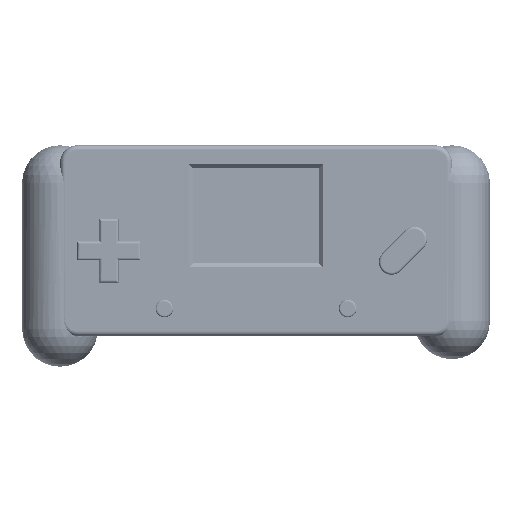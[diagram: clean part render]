
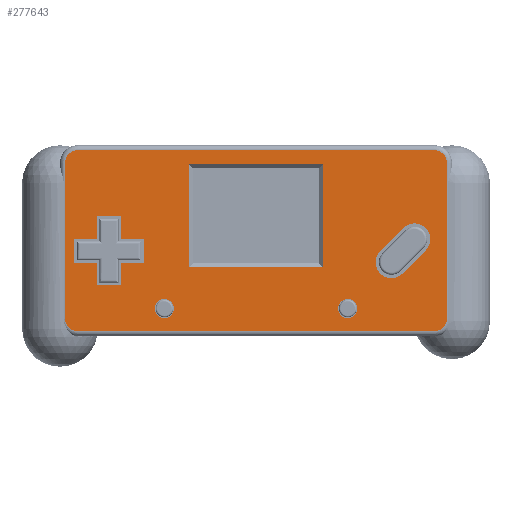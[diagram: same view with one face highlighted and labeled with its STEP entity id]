
A CAD part, top view. The second image highlights one B-rep face of the part: STEP entity #277643.
In plain terms, the highlighted planar face has unit normal (0, 0, 1).
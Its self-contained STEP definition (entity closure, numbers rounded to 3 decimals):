
#15431=FACE_BOUND('',#55122,.T.);
#15432=FACE_BOUND('',#55123,.T.);
#15433=FACE_BOUND('',#55124,.T.);
#15434=FACE_BOUND('',#55125,.T.);
#15435=FACE_BOUND('',#55126,.T.);
#24306=PLANE('',#303301);
#38464=FACE_OUTER_BOUND('',#55121,.T.);
#55121=EDGE_LOOP('',(#259412,#259413,#259414,#259415,#259416,#259417,#259418,
#259419));
#55122=EDGE_LOOP('',(#259420));
#55123=EDGE_LOOP('',(#259421,#259422,#259423,#259424,#259425,#259426,#259427,
#259428,#259429,#259430,#259431,#259432));
#55124=EDGE_LOOP('',(#259433));
#55125=EDGE_LOOP('',(#259434,#259435,#259436,#259437));
#55126=EDGE_LOOP('',(#259438,#259439,#259440,#259441));
#82315=LINE('',#485964,#109541);
#82319=LINE('',#485971,#109545);
#82322=LINE('',#485976,#109548);
#82324=LINE('',#485979,#109550);
#82326=LINE('',#485987,#109552);
#82327=LINE('',#485991,#109553);
#82328=LINE('',#485995,#109554);
#82329=LINE('',#485998,#109555);
#82330=LINE('',#486003,#109556);
#82331=LINE('',#486005,#109557);
#82332=LINE('',#486007,#109558);
#82333=LINE('',#486009,#109559);
#82334=LINE('',#486011,#109560);
#82335=LINE('',#486013,#109561);
#82336=LINE('',#486015,#109562);
#82337=LINE('',#486017,#109563);
#82338=LINE('',#486019,#109564);
#82339=LINE('',#486021,#109565);
#82340=LINE('',#486023,#109566);
#82341=LINE('',#486024,#109567);
#82342=LINE('',#486029,#109568);
#82343=LINE('',#486033,#109569);
#109541=VECTOR('',#377323,10.);
#109545=VECTOR('',#377329,10.);
#109548=VECTOR('',#377334,10.);
#109550=VECTOR('',#377338,10.);
#109552=VECTOR('',#377346,10.);
#109553=VECTOR('',#377349,10.);
#109554=VECTOR('',#377352,10.);
#109555=VECTOR('',#377355,10.);
#109556=VECTOR('',#377358,10.);
#109557=VECTOR('',#377359,10.);
#109558=VECTOR('',#377360,10.);
#109559=VECTOR('',#377361,10.);
#109560=VECTOR('',#377362,10.);
#109561=VECTOR('',#377363,10.);
#109562=VECTOR('',#377364,10.);
#109563=VECTOR('',#377365,10.);
#109564=VECTOR('',#377366,10.);
#109565=VECTOR('',#377367,10.);
#109566=VECTOR('',#377368,10.);
#109567=VECTOR('',#377369,10.);
#109568=VECTOR('',#377372,10.);
#109569=VECTOR('',#377375,10.);
#118753=CIRCLE('',#303302,5.);
#118754=CIRCLE('',#303303,5.);
#118755=CIRCLE('',#303304,5.);
#118756=CIRCLE('',#303305,5.);
#118757=CIRCLE('',#303306,3.8);
#118758=CIRCLE('',#303307,3.8);
#118759=CIRCLE('',#303308,6.3);
#118760=CIRCLE('',#303309,6.3);
#145693=VERTEX_POINT('',#485962);
#145694=VERTEX_POINT('',#485963);
#145696=VERTEX_POINT('',#485970);
#145697=VERTEX_POINT('',#485975);
#145698=VERTEX_POINT('',#485983);
#145699=VERTEX_POINT('',#485984);
#145700=VERTEX_POINT('',#485986);
#145701=VERTEX_POINT('',#485988);
#145702=VERTEX_POINT('',#485990);
#145703=VERTEX_POINT('',#485992);
#145704=VERTEX_POINT('',#485994);
#145705=VERTEX_POINT('',#485996);
#145706=VERTEX_POINT('',#485999);
#145707=VERTEX_POINT('',#486001);
#145708=VERTEX_POINT('',#486002);
#145709=VERTEX_POINT('',#486004);
#145710=VERTEX_POINT('',#486006);
#145711=VERTEX_POINT('',#486008);
#145712=VERTEX_POINT('',#486010);
#145713=VERTEX_POINT('',#486012);
#145714=VERTEX_POINT('',#486014);
#145715=VERTEX_POINT('',#486016);
#145716=VERTEX_POINT('',#486018);
#145717=VERTEX_POINT('',#486020);
#145718=VERTEX_POINT('',#486022);
#145719=VERTEX_POINT('',#486025);
#145720=VERTEX_POINT('',#486027);
#145721=VERTEX_POINT('',#486028);
#145722=VERTEX_POINT('',#486030);
#145723=VERTEX_POINT('',#486032);
#184686=EDGE_CURVE('',#145693,#145694,#82315,.T.);
#184690=EDGE_CURVE('',#145694,#145696,#82319,.T.);
#184693=EDGE_CURVE('',#145696,#145697,#82322,.T.);
#184695=EDGE_CURVE('',#145697,#145693,#82324,.T.);
#184697=EDGE_CURVE('',#145698,#145699,#118753,.T.);
#184698=EDGE_CURVE('',#145700,#145698,#82326,.T.);
#184699=EDGE_CURVE('',#145701,#145700,#118754,.T.);
#184700=EDGE_CURVE('',#145702,#145701,#82327,.T.);
#184701=EDGE_CURVE('',#145703,#145702,#118755,.T.);
#184702=EDGE_CURVE('',#145704,#145703,#82328,.T.);
#184703=EDGE_CURVE('',#145705,#145704,#118756,.T.);
#184704=EDGE_CURVE('',#145699,#145705,#82329,.T.);
#184705=EDGE_CURVE('',#145706,#145706,#118757,.T.);
#184706=EDGE_CURVE('',#145707,#145708,#82330,.T.);
#184707=EDGE_CURVE('',#145708,#145709,#82331,.T.);
#184708=EDGE_CURVE('',#145709,#145710,#82332,.T.);
#184709=EDGE_CURVE('',#145710,#145711,#82333,.T.);
#184710=EDGE_CURVE('',#145711,#145712,#82334,.T.);
#184711=EDGE_CURVE('',#145712,#145713,#82335,.T.);
#184712=EDGE_CURVE('',#145713,#145714,#82336,.T.);
#184713=EDGE_CURVE('',#145714,#145715,#82337,.T.);
#184714=EDGE_CURVE('',#145715,#145716,#82338,.T.);
#184715=EDGE_CURVE('',#145716,#145717,#82339,.T.);
#184716=EDGE_CURVE('',#145717,#145718,#82340,.T.);
#184717=EDGE_CURVE('',#145718,#145707,#82341,.T.);
#184718=EDGE_CURVE('',#145719,#145719,#118758,.T.);
#184719=EDGE_CURVE('',#145720,#145721,#82342,.T.);
#184720=EDGE_CURVE('',#145721,#145722,#118759,.T.);
#184721=EDGE_CURVE('',#145722,#145723,#82343,.T.);
#184722=EDGE_CURVE('',#145723,#145720,#118760,.T.);
#259412=ORIENTED_EDGE('',*,*,#184697,.F.);
#259413=ORIENTED_EDGE('',*,*,#184698,.F.);
#259414=ORIENTED_EDGE('',*,*,#184699,.F.);
#259415=ORIENTED_EDGE('',*,*,#184700,.F.);
#259416=ORIENTED_EDGE('',*,*,#184701,.F.);
#259417=ORIENTED_EDGE('',*,*,#184702,.F.);
#259418=ORIENTED_EDGE('',*,*,#184703,.F.);
#259419=ORIENTED_EDGE('',*,*,#184704,.F.);
#259420=ORIENTED_EDGE('',*,*,#184705,.T.);
#259421=ORIENTED_EDGE('',*,*,#184706,.T.);
#259422=ORIENTED_EDGE('',*,*,#184707,.T.);
#259423=ORIENTED_EDGE('',*,*,#184708,.T.);
#259424=ORIENTED_EDGE('',*,*,#184709,.T.);
#259425=ORIENTED_EDGE('',*,*,#184710,.T.);
#259426=ORIENTED_EDGE('',*,*,#184711,.T.);
#259427=ORIENTED_EDGE('',*,*,#184712,.T.);
#259428=ORIENTED_EDGE('',*,*,#184713,.T.);
#259429=ORIENTED_EDGE('',*,*,#184714,.T.);
#259430=ORIENTED_EDGE('',*,*,#184715,.T.);
#259431=ORIENTED_EDGE('',*,*,#184716,.T.);
#259432=ORIENTED_EDGE('',*,*,#184717,.T.);
#259433=ORIENTED_EDGE('',*,*,#184718,.T.);
#259434=ORIENTED_EDGE('',*,*,#184719,.T.);
#259435=ORIENTED_EDGE('',*,*,#184720,.T.);
#259436=ORIENTED_EDGE('',*,*,#184721,.T.);
#259437=ORIENTED_EDGE('',*,*,#184722,.T.);
#259438=ORIENTED_EDGE('',*,*,#184686,.F.);
#259439=ORIENTED_EDGE('',*,*,#184695,.F.);
#259440=ORIENTED_EDGE('',*,*,#184693,.F.);
#259441=ORIENTED_EDGE('',*,*,#184690,.F.);
#277643=ADVANCED_FACE('',(#38464,#15431,#15432,#15433,#15434,#15435),#24306,
 .T.);
#303301=AXIS2_PLACEMENT_3D('',#485982,#377342,#377343);
#303302=AXIS2_PLACEMENT_3D('',#485985,#377344,#377345);
#303303=AXIS2_PLACEMENT_3D('',#485989,#377347,#377348);
#303304=AXIS2_PLACEMENT_3D('',#485993,#377350,#377351);
#303305=AXIS2_PLACEMENT_3D('',#485997,#377353,#377354);
#303306=AXIS2_PLACEMENT_3D('',#486000,#377356,#377357);
#303307=AXIS2_PLACEMENT_3D('',#486026,#377370,#377371);
#303308=AXIS2_PLACEMENT_3D('',#486031,#377373,#377374);
#303309=AXIS2_PLACEMENT_3D('',#486034,#377376,#377377);
#377323=DIRECTION('',(-1.,0.,0.));
#377329=DIRECTION('',(0.,-1.,0.));
#377334=DIRECTION('',(1.,0.,0.));
#377338=DIRECTION('',(0.,1.,0.));
#377342=DIRECTION('center_axis',(0.,0.,1.));
#377343=DIRECTION('ref_axis',(1.,0.,0.));
#377344=DIRECTION('center_axis',(0.,0.,-1.));
#377345=DIRECTION('ref_axis',(-0.707,0.707,0.));
#377346=DIRECTION('',(0.,1.,0.));
#377347=DIRECTION('center_axis',(0.,0.,-1.));
#377348=DIRECTION('ref_axis',(-0.707,-0.707,0.));
#377349=DIRECTION('',(-1.,0.,0.));
#377350=DIRECTION('center_axis',(0.,0.,-1.));
#377351=DIRECTION('ref_axis',(0.707,-0.707,0.));
#377352=DIRECTION('',(0.,-1.,0.));
#377353=DIRECTION('center_axis',(0.,0.,-1.));
#377354=DIRECTION('ref_axis',(0.707,0.707,0.));
#377355=DIRECTION('',(1.,0.,0.));
#377356=DIRECTION('center_axis',(0.,0.,-1.));
#377357=DIRECTION('ref_axis',(1.,0.,0.));
#377358=DIRECTION('',(-1.,0.,0.));
#377359=DIRECTION('',(0.,1.,0.));
#377360=DIRECTION('',(-1.,0.,0.));
#377361=DIRECTION('',(0.,1.,0.));
#377362=DIRECTION('',(1.,0.,0.));
#377363=DIRECTION('',(0.,1.,0.));
#377364=DIRECTION('',(1.,0.,0.));
#377365=DIRECTION('',(0.,-1.,0.));
#377366=DIRECTION('',(1.,0.,0.));
#377367=DIRECTION('',(0.,-1.,0.));
#377368=DIRECTION('',(-1.,0.,0.));
#377369=DIRECTION('',(0.,-1.,0.));
#377370=DIRECTION('center_axis',(0.,0.,-1.));
#377371=DIRECTION('ref_axis',(1.,0.,0.));
#377372=DIRECTION('',(0.707,0.707,0.));
#377373=DIRECTION('center_axis',(0.,0.,-1.));
#377374=DIRECTION('ref_axis',(0.707,-0.707,0.));
#377375=DIRECTION('',(-0.707,-0.707,0.));
#377376=DIRECTION('center_axis',(0.,0.,-1.));
#377377=DIRECTION('ref_axis',(-0.707,0.707,0.));
#485962=CARTESIAN_POINT('',(101.5,65.35,12.7));
#485963=CARTESIAN_POINT('',(48.5,65.35,12.7));
#485964=CARTESIAN_POINT('',(62.5,65.35,12.7));
#485970=CARTESIAN_POINT('',(48.5,24.65,12.7));
#485971=CARTESIAN_POINT('',(48.5,30.575,12.7));
#485975=CARTESIAN_POINT('',(101.5,24.65,12.7));
#485976=CARTESIAN_POINT('',(87.5,24.65,12.7));
#485979=CARTESIAN_POINT('',(101.5,49.425,12.7));
#485982=CARTESIAN_POINT('Origin',(75.,35.,12.7));
#485983=CARTESIAN_POINT('',(-1.,66.,12.7));
#485984=CARTESIAN_POINT('',(4.,71.,12.7));
#485985=CARTESIAN_POINT('Origin',(4.,66.,12.7));
#485986=CARTESIAN_POINT('',(-1.,4.,12.7));
#485987=CARTESIAN_POINT('',(-1.,54.,12.7));
#485988=CARTESIAN_POINT('',(4.,-1.,12.7));
#485989=CARTESIAN_POINT('Origin',(4.,4.,12.7));
#485990=CARTESIAN_POINT('',(146.,-1.,12.7));
#485991=CARTESIAN_POINT('',(36.,-1.,12.7));
#485992=CARTESIAN_POINT('',(151.,4.,12.7));
#485993=CARTESIAN_POINT('Origin',(146.,4.,12.7));
#485994=CARTESIAN_POINT('',(151.,66.,12.7));
#485995=CARTESIAN_POINT('',(151.,16.,12.7));
#485996=CARTESIAN_POINT('',(146.,71.,12.7));
#485997=CARTESIAN_POINT('Origin',(146.,66.,12.7));
#485998=CARTESIAN_POINT('',(114.,71.,12.7));
#485999=CARTESIAN_POINT('',(34.7,8.,12.7));
#486000=CARTESIAN_POINT('Origin',(38.5,8.,12.7));
#486001=CARTESIAN_POINT('',(21.3,17.2,12.7));
#486002=CARTESIAN_POINT('',(11.7,17.2,12.7));
#486003=CARTESIAN_POINT('',(48.15,17.2,12.7));
#486004=CARTESIAN_POINT('',(11.7,26.2,12.7));
#486005=CARTESIAN_POINT('',(11.7,26.1,12.7));
#486006=CARTESIAN_POINT('',(2.7,26.2,12.7));
#486007=CARTESIAN_POINT('',(43.35,26.2,12.7));
#486008=CARTESIAN_POINT('',(2.7,35.8,12.7));
#486009=CARTESIAN_POINT('',(2.7,30.6,12.7));
#486010=CARTESIAN_POINT('',(11.7,35.8,12.7));
#486011=CARTESIAN_POINT('',(38.85,35.8,12.7));
#486012=CARTESIAN_POINT('',(11.7,44.8,12.7));
#486013=CARTESIAN_POINT('',(11.7,35.4,12.7));
#486014=CARTESIAN_POINT('',(21.3,44.8,12.7));
#486015=CARTESIAN_POINT('',(43.35,44.8,12.7));
#486016=CARTESIAN_POINT('',(21.3,35.8,12.7));
#486017=CARTESIAN_POINT('',(21.3,39.9,12.7));
#486018=CARTESIAN_POINT('',(30.3,35.8,12.7));
#486019=CARTESIAN_POINT('',(48.15,35.8,12.7));
#486020=CARTESIAN_POINT('',(30.3,26.2,12.7));
#486021=CARTESIAN_POINT('',(30.3,35.4,12.7));
#486022=CARTESIAN_POINT('',(21.3,26.2,12.7));
#486023=CARTESIAN_POINT('',(52.65,26.2,12.7));
#486024=CARTESIAN_POINT('',(21.3,30.6,12.7));
#486025=CARTESIAN_POINT('',(107.7,8.,12.7));
#486026=CARTESIAN_POINT('Origin',(111.5,8.,12.7));
#486027=CARTESIAN_POINT('',(124.445,30.855,12.7));
#486028=CARTESIAN_POINT('',(133.645,40.055,12.7));
#486029=CARTESIAN_POINT('',(113.12,19.53,12.7));
#486030=CARTESIAN_POINT('',(142.555,31.145,12.7));
#486031=CARTESIAN_POINT('Origin',(138.1,35.6,12.7));
#486032=CARTESIAN_POINT('',(133.355,21.945,12.7));
#486033=CARTESIAN_POINT('',(126.63,15.22,12.7));
#486034=CARTESIAN_POINT('Origin',(128.9,26.4,12.7));
